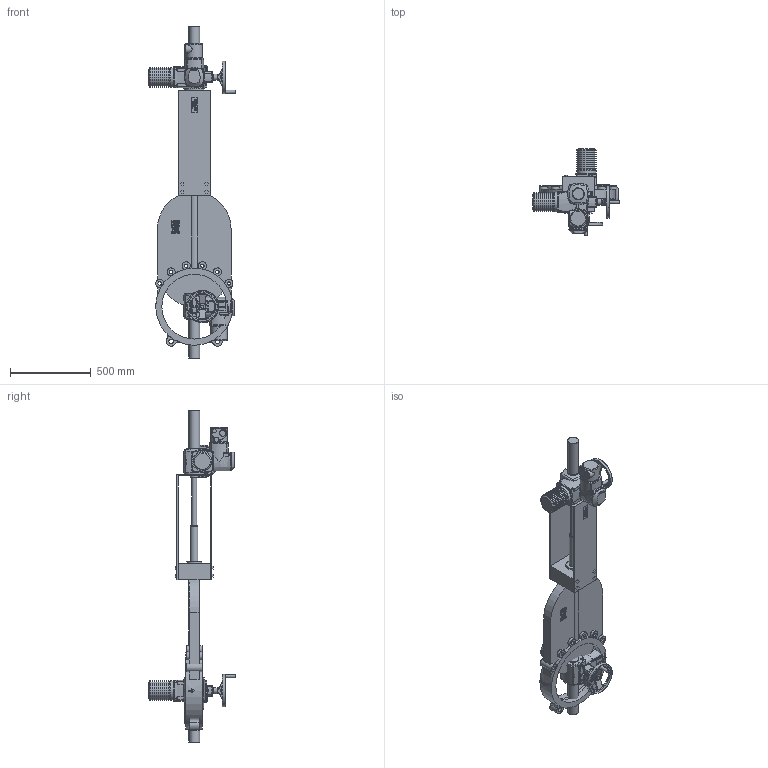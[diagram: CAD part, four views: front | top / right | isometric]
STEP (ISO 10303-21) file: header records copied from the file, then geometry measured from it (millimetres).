
FILE_DESCRIPTION( ( 'Unknown' ), '1' );
FILE_NAME( 'J:/Muud/ROOTSI BPS 3D vidinad/Nugasiibrid/Knife gate valve with electric actuator BPS/STEP formaat/BPS 2010400E knife gate valve DN400.stp', 'Unknown', ( 'Unknown' ), ( 'Unknown' ), 'PSStep 10.1', 'Unknown', ' ' );
FILE_SCHEMA( ( 'AUTOMOTIVE_DESIGN { 1 0 10303 214 1 1 1 1 }' ) );
Length unit declared in the file: millimetre
Products named in the file (3): Assem1; Knife gate valve for electric drive DN400 BPS; AUMA electric actuator sa10.1-oa0
Bounding box: 535.9 x 535.9 x 2050 mm (x, y, z)
Volume: 73102032.8 mm3; surface area: 4855412.1 mm2
Topology: 4 solids, 4 shells, 2682 faces, 6564 edges, 4144 vertices
Faces by surface type: extrusion 968, plane 658, cylinder 458, bspline 366, torus 110, cone 76, sphere 46
Full cylindrical faces by diameter (mm): 4.917 x8, 8.376 x8, 20 x4, 20.752 x12, 24 x2, 25 x2, 27 x4, 30 x8, 38 x2, 40 x2, 45 x2, 45.5 x2, 48 x4, 68 x2, 70 x2, 90 x2, 111.5 x22, 120.5 x20, 121 x2, 125 x2, 200 x2, 400 x4, 476 x2
Entity records: 80982 total; most frequent: CARTESIAN_POINT 41874, ORIENTED_EDGE 6204, DIRECTION 4481, EDGE_CURVE 3102, VERTEX_POINT 2036, VECTOR 1793, EDGE_LOOP 1630, B_SPLINE_CURVE_WITH_KNOTS 1604
